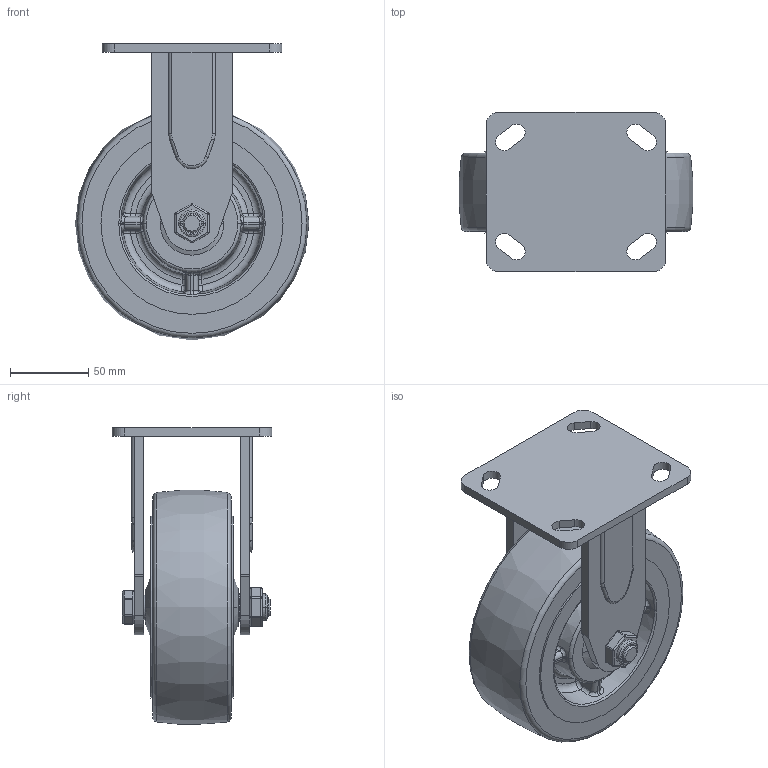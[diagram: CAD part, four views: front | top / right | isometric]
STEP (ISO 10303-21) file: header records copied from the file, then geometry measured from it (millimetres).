
FILE_DESCRIPTION(/* description */ (''),/* implementation_level */ '2;1');
FILE_NAME(/* name */ '35A77_6_F.stp',/* time_stamp */ '2022-08-27T16:10:02+08:00',/* author */ (''),/* organization */ (''),/* preprocessor_version */ 'ST-DEVELOPER v14',/* originating_system */ 'SIEMENS PLM Software NX 8.0',/* authorisation */ '');
FILE_SCHEMA (('AUTOMOTIVE_DESIGN { 1 0 10303 214 3 1 1 1 }'));
Length unit declared in the file: millimetre
Products named in the file (1): 35A77_6_F
Bounding box: 149.65 x 102 x 189.98 mm (x, y, z)
Volume: 929804.1 mm3; surface area: 132727.9 mm2
Topology: 1 solids, 1 shells, 616 faces, 1520 edges, 926 vertices
Faces by surface type: plane 262, bspline 143, cylinder 139, torus 30, cone 30, sphere 12
Entity records: 24288 total; most frequent: CARTESIAN_POINT 11641, ORIENTED_EDGE 3006, DIRECTION 2069, EDGE_CURVE 1503, VERTEX_POINT 924, AXIS2_PLACEMENT_3D 752, EDGE_LOOP 661, ADVANCED_FACE 616
